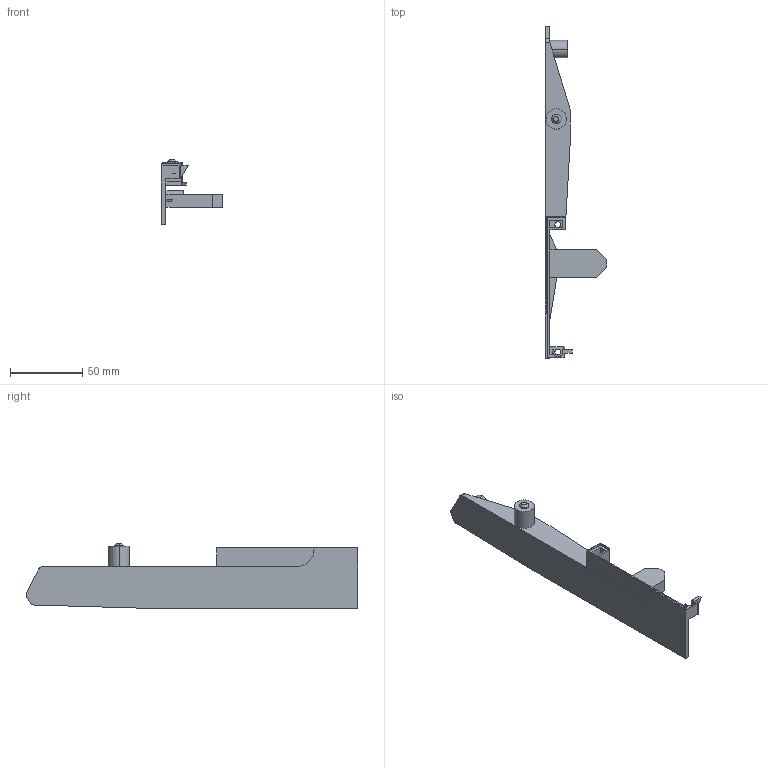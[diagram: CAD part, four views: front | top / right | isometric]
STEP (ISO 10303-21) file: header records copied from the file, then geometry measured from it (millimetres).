
FILE_DESCRIPTION (( 'STEP AP203' ), '1' );
FILE_NAME ('StrongBox držák èela vnitøní zásuvky H204 se dvìma relingy levý_291439_3D a 293609_3D.STEP', '2020-07-07T08:30:36', ( '' ), ( '' ), 'SwSTEP 2.0', 'SolidWorks 2019', '' );
FILE_SCHEMA (( 'CONFIG_CONTROL_DESIGN' ));
Length unit declared in the file: millimetre
Products named in the file (1): StrongBox držák èela vnitøní zásuvky H204 se dvìma relingy levý_291439_3D a 293609_3D
Bounding box: 42.1 x 229 x 45 mm (x, y, z)
Volume: 36860.8 mm3; surface area: 24923.6 mm2
Topology: 1 solids, 1 shells, 88 faces, 235 edges, 155 vertices
Faces by surface type: plane 61, cylinder 25, cone 2
Entity records: 2816 total; most frequent: CARTESIAN_POINT 479, ORIENTED_EDGE 470, DIRECTION 465, EDGE_CURVE 235, VECTOR 183, LINE 183, VERTEX_POINT 155, AXIS2_PLACEMENT_3D 141
